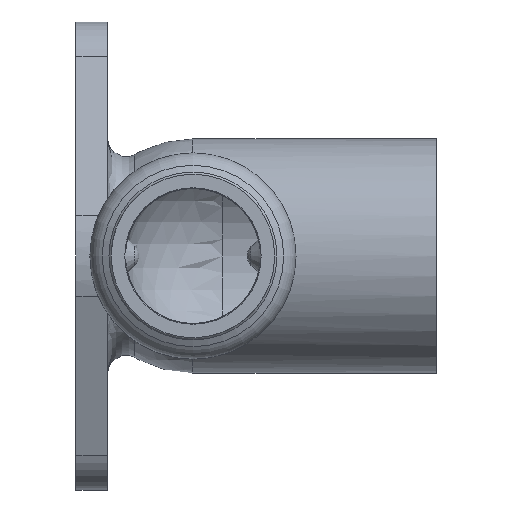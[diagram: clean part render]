
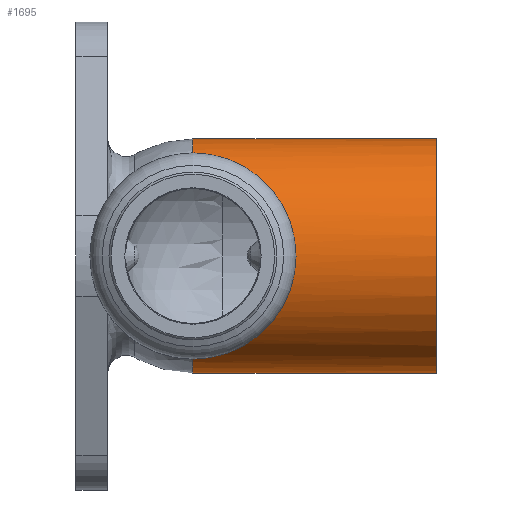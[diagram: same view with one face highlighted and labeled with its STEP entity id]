
A CAD part, left-side view. The second image highlights one B-rep face of the part: STEP entity #1695.
In plain terms, the highlighted cylindrical face has radius 13 mm (diameter 26 mm), a full revolution.
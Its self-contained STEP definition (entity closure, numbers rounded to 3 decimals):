
#727=CARTESIAN_POINT('',(-8.571,0.,9.774));
#728=VERTEX_POINT('',#727);
#771=CARTESIAN_POINT('',(-8.571,0.,-9.774));
#772=VERTEX_POINT('',#771);
#780=CARTESIAN_POINT('',(-8.571,0.,-9.774));
#781=CARTESIAN_POINT('',(-8.571,-0.391,-9.774));
#782=CARTESIAN_POINT('',(-8.623,-1.177,-9.729));
#783=CARTESIAN_POINT('',(-8.846,-2.324,-9.529));
#784=CARTESIAN_POINT('',(-9.176,-3.4,-9.214));
#785=CARTESIAN_POINT('',(-9.585,-4.42,-8.79));
#786=CARTESIAN_POINT('',(-10.039,-5.365,-8.271));
#787=CARTESIAN_POINT('',(-10.511,-6.237,-7.664));
#788=CARTESIAN_POINT('',(-10.99,-7.045,-6.964));
#789=CARTESIAN_POINT('',(-11.503,-7.857,-6.089));
#790=CARTESIAN_POINT('',(-12.017,-8.622,-5.021));
#791=CARTESIAN_POINT('',(-12.489,-9.297,-3.702));
#792=CARTESIAN_POINT('',(-12.828,-9.766,-2.276));
#793=CARTESIAN_POINT('',(-13.008,-10.011,-0.766));
#794=CARTESIAN_POINT('',(-13.007,-10.01,0.773));
#795=CARTESIAN_POINT('',(-12.858,-9.806,2.029));
#796=CARTESIAN_POINT('',(-12.657,-9.528,2.998));
#797=CARTESIAN_POINT('',(-12.408,-9.181,3.928));
#798=CARTESIAN_POINT('',(-12.017,-8.623,5.02));
#799=CARTESIAN_POINT('',(-11.543,-7.917,6.005));
#800=CARTESIAN_POINT('',(-11.138,-7.281,6.712));
#801=CARTESIAN_POINT('',(-10.517,-6.264,7.693));
#802=CARTESIAN_POINT('',(-9.806,-4.97,8.562));
#803=CARTESIAN_POINT('',(-9.175,-3.397,9.214));
#804=CARTESIAN_POINT('',(-8.844,-2.315,9.531));
#805=CARTESIAN_POINT('',(-8.623,-1.178,9.729));
#806=CARTESIAN_POINT('',(-8.571,-0.391,9.774));
#807=CARTESIAN_POINT('',(-8.571,0.,9.774));
#808=B_SPLINE_CURVE_WITH_KNOTS('',3,(#780,#781,#782,#783,#784,#785,#786,#787,#788,#789,#790,#791,#792,#793,#794,#795,#796,#797,#798,#799,#800,#801,#802,#803,#804,#805,#806,#807),.UNSPECIFIED.,.F.,.U.,(4,1,1,1,1,1,1,1,1,1,1,1,1,1,1,1,1,1,1,1,1,1,1,1,1,4),(0.0,0.117,0.234,0.352,0.469,0.586,0.703,0.82,0.938,1.094,1.25,1.406,1.563,1.719,1.875,1.953,2.031,2.188,2.344,2.422,2.5,2.813,2.93,3.047,3.164,3.281),.UNSPECIFIED.);
#809=EDGE_CURVE('',#772,#728,#808,.T.);
#1643=CARTESIAN_POINT('',(0.,0.,13.));
#1644=VERTEX_POINT('',#1643);
#1645=CARTESIAN_POINT('',(0.,0.,0.0));
#1646=DIRECTION('',(0.0,-1.0,0.0));
#1647=DIRECTION('',(1.0,0.0,0.0));
#1648=AXIS2_PLACEMENT_3D('',#1645,#1646,#1647);
#1649=CIRCLE('',#1648,13.);
#1650=EDGE_CURVE('',#1644,#728,#1649,.T.);
#1652=CARTESIAN_POINT('',(0.,0.,-13.));
#1653=VERTEX_POINT('',#1652);
#1654=CARTESIAN_POINT('',(0.,0.,0.0));
#1655=DIRECTION('',(0.0,-1.0,0.0));
#1656=DIRECTION('',(1.0,0.0,0.0));
#1657=AXIS2_PLACEMENT_3D('',#1654,#1655,#1656);
#1658=CIRCLE('',#1657,13.);
#1659=EDGE_CURVE('',#1653,#1644,#1658,.T.);
#1661=CARTESIAN_POINT('',(0.,0.,0.0));
#1662=DIRECTION('',(0.0,-1.0,0.0));
#1663=DIRECTION('',(1.0,0.0,0.0));
#1664=AXIS2_PLACEMENT_3D('',#1661,#1662,#1663);
#1665=CIRCLE('',#1664,13.);
#1666=EDGE_CURVE('',#772,#1653,#1665,.T.);
#1673=CARTESIAN_POINT('',(0.,-13.5,0.0));
#1674=DIRECTION('',(0.,-1.0,0.0));
#1675=DIRECTION('',(1.0,0.0,0.0));
#1676=AXIS2_PLACEMENT_3D('',#1673,#1674,#1675);
#1677=CYLINDRICAL_SURFACE('',#1676,13.);
#1678=CARTESIAN_POINT('',(13.,-27.0,0.0));
#1679=VERTEX_POINT('',#1678);
#1680=CARTESIAN_POINT('',(0.,-27.,0.0));
#1681=DIRECTION('',(0.0,-1.0,0.0));
#1682=DIRECTION('',(1.0,0.0,0.0));
#1683=AXIS2_PLACEMENT_3D('',#1680,#1681,#1682);
#1684=CIRCLE('',#1683,13.);
#1685=EDGE_CURVE('',#1679,#1679,#1684,.T.);
#1686=ORIENTED_EDGE('',*,*,#1685,.F.);
#1687=EDGE_LOOP('',(#1686));
#1688=FACE_OUTER_BOUND('',#1687,.T.);
#1689=ORIENTED_EDGE('',*,*,#809,.F.);
#1690=ORIENTED_EDGE('',*,*,#1666,.T.);
#1691=ORIENTED_EDGE('',*,*,#1659,.T.);
#1692=ORIENTED_EDGE('',*,*,#1650,.T.);
#1693=EDGE_LOOP('',(#1689,#1690,#1691,#1692));
#1694=FACE_BOUND('',#1693,.T.);
#1695=ADVANCED_FACE('',(#1688,#1694),#1677,.T.);
